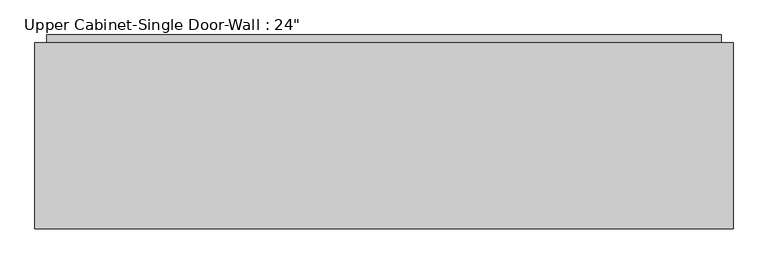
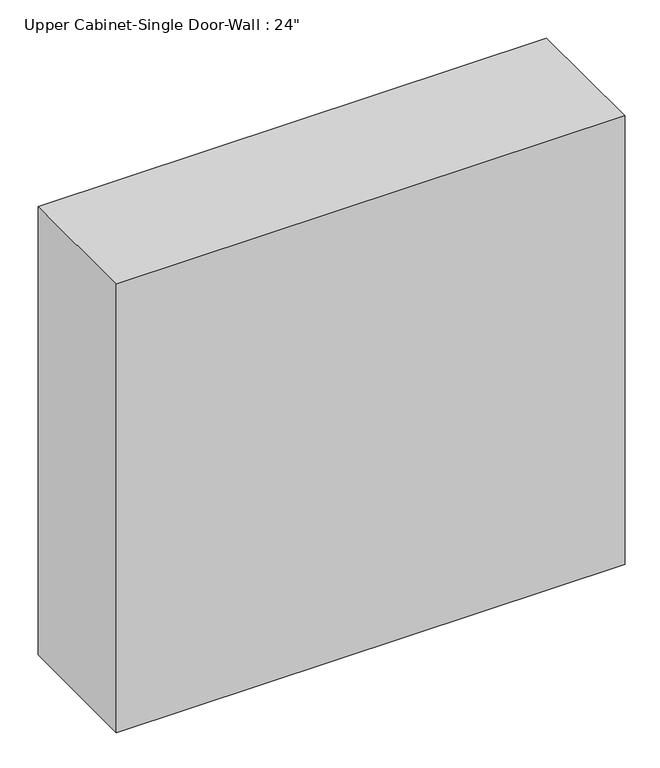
"""IFC4 building model written with IfcOpenShell, lengths in millimetres: furniture geometry."""

from ifc_helpers import new_model, si_unit, frame, origin, place, context, project, spatial, polyline, outline, extrude, faceted_brep, source, transform, mapped, element, save


def furniture_770a82d7(model_context):
    return source(origin(), model_context, "Body", "SolidModel", [
        faceted_brep([(-885.5269032, 95.25, 2438.4), (-885.5269032, 95.25, 1371.6), (258.3711628, 95.25, 1371.6), (258.3711628, 95.25, 2438.4), (-885.5269032, 400.05, 2438.4), (258.3711628, 400.05, 2438.4), (258.3711628, 400.05, 1371.6), (-885.5269032, 400.05, 1371.6), (-866.4769032, 400.05, 2419.35), (-866.4769032, 400.05, 1390.65), (239.3211628, 400.05, 1390.65), (239.3211628, 400.05, 2419.35), (239.3211628, 114.3, 2419.35), (-866.4769032, 114.3, 2419.35), (239.3211628, 114.3, 1390.65), (-866.4769032, 114.3, 1390.65)], [[[0, 1, 2, 3]], [[4, 5, 6, 7], [8, 9, 10, 11]], [[1, 0, 4, 7]], [[2, 1, 7, 6]], [[3, 2, 6, 5]], [[0, 3, 5, 4]], [[8, 11, 12, 13]], [[11, 10, 14, 12]], [[10, 9, 15, 14]], [[9, 8, 13, 15]], [[13, 12, 14, 15]]]),
        extrude(outline(polyline([(-866.4769032, 412.75), (239.3211628, 412.75), (239.3211628, 381.0), (-866.4769032, 381.0), (-866.4769032, 412.75)])), frame((0.0, 0.0, 1390.65), z_axis=(0.0, 0.0, 1.0), x_axis=(1.0, 0.0, 0.0)), (0.0, 0.0, 1.0), 1028.7),
    ])


if __name__ == "__main__":
    model = new_model("IFC4")
    model_context = context("Model", 3, world=origin())
    ifc_project = project(units=[si_unit("LENGTHUNIT", "METRE", prefix="MILLI")], contexts=[model_context])
    site = spatial("IfcSite", under=ifc_project)
    building = spatial("IfcBuilding", under=site)
    placement = place(None, origin())
    furniture_shape = furniture_770a82d7(model_context)
    element("IfcFurniture", 1, ObjectType="Upper Cabinet-Single Door-Wall : 24\"", at=placement, inside=building, context=model_context, shape_type="MappedRepresentation", body=[
        mapped(furniture_shape, transform((0.0, 0.0, 0.0), x_axis=(1.0, 0.0, 0.0), y_axis=(0.0, 1.0, 0.0), z_axis=(0.0, 0.0, 1.0))),
    ])
    save(model, "model.ifc")
